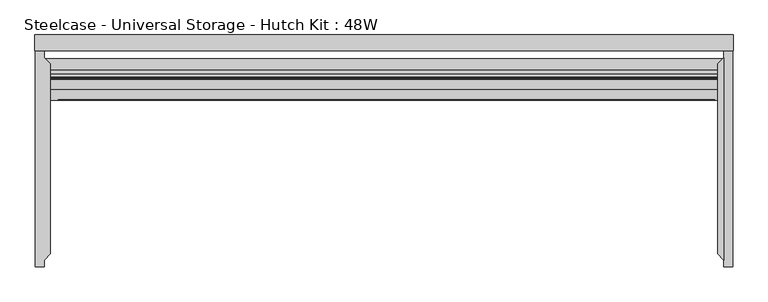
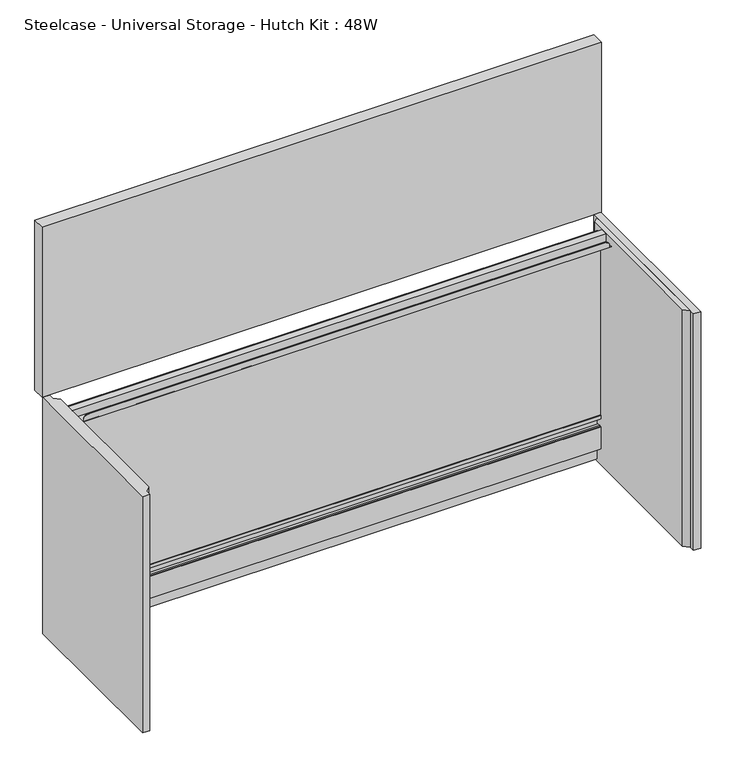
"""IFC4 building model written with IfcOpenShell, lengths in millimetres: furniture geometry, Steelcase - Universal Storage - Hutch Kit : 48W."""

import ifcopenshell
import ifcopenshell.guid

model = None  # the IFC model being written
_history = None  # IfcOwnerHistory: only IFC2X3 demands one
_inside = {}  # id of a spatial element -> (the spatial element, [elements in it])
_under = {}  # id of a project, library or spatial element -> (it, [spatial elements below it])
_declared = {}  # id of a project -> (the project, [libraries it declares])
_typed = {}  # id of a type object -> (the type object, [elements of that type])
_made_of = {}  # id of a material, layer set ... -> (it, [elements and type objects made of it])


def new_model(schema):
    """Start an empty IFC model of exactly this schema.

    Asked for "IFC4X3", IfcOpenShell would pick the latest addendum, in which some entities
    have other attributes; the version numbers below select the first issue.
    IFC2X3 requires an IfcOwnerHistory on every rooted entity: one is made here for all.
    """
    global model, _history
    if schema == "IFC4X3":
        model = ifcopenshell.file(schema_version=(4, 3, 0, 0))
    else:
        model = ifcopenshell.file(schema=schema)
    _inside.clear()
    _under.clear()
    _declared.clear()
    _typed.clear()
    _made_of.clear()
    _history = None
    if model.schema == "IFC2X3":
        org = make("IfcOrganization", Name="unknown")
        user = make(
            "IfcPersonAndOrganization",
            ThePerson=make("IfcPerson", FamilyName="unknown"),
            TheOrganization=org,
        )
        app = make(
            "IfcApplication",
            ApplicationDeveloper=org,
            Version="unknown",
            ApplicationFullName="unknown",
            ApplicationIdentifier="unknown",
        )
        _history = make(
            "IfcOwnerHistory",
            OwningUser=user,
            OwningApplication=app,
            ChangeAction="ADDED",
            CreationDate=0,
        )
    return model


def make(cls, **values):
    """One entity of the class cls with the attributes given. An attribute that is None is left unset."""
    return model.create_entity(
        cls, **{name: value for name, value in values.items() if value is not None}
    )


def rooted(cls, **values):
    """An entity with a GlobalId (a new one), such as an element, a storey or a relation."""
    return make(cls, GlobalId=ifcopenshell.guid.new(), OwnerHistory=_history, **values)


def si_unit(unit_type, name, prefix=None):
    """IfcSIUnit, for example si_unit("LENGTHUNIT", "METRE", prefix="MILLI")."""
    return make("IfcSIUnit", UnitType=unit_type, Prefix=prefix, Name=name)


def assignment(units):
    """IfcUnitAssignment: the units of a project."""
    return None if units is None else make("IfcUnitAssignment", Units=units)


def point(xyz):
    """IfcCartesianPoint."""
    return None if xyz is None else make("IfcCartesianPoint", Coordinates=xyz)


def direction(xyz):
    """IfcDirection."""
    return None if xyz is None else make("IfcDirection", DirectionRatios=xyz)


def frame(location, z_axis=None, x_axis=None):
    """IfcAxis2Placement3D, a coordinate frame: its origin and axes. An axis left out is left unset."""
    return make(
        "IfcAxis2Placement3D",
        Location=point(location),
        Axis=direction(z_axis),
        RefDirection=direction(x_axis),
    )


def origin():
    """The frame at (0, 0, 0) with its axes left unset."""
    return frame((0.0, 0.0, 0.0))


def place(relative_to, where):
    """IfcLocalPlacement: puts the frame where relative to a parent placement (None: the world)."""
    return make(
        "IfcLocalPlacement", PlacementRelTo=relative_to, RelativePlacement=where
    )


def context(
    kind, dimensions, precision=None, world=None, true_north=None, identifier=None
):
    """IfcGeometricRepresentationContext, for example the 3D "Model" context."""
    return make(
        "IfcGeometricRepresentationContext",
        ContextIdentifier=identifier,
        ContextType=kind,
        CoordinateSpaceDimension=dimensions,
        Precision=precision,
        WorldCoordinateSystem=world,
        TrueNorth=true_north,
    )


def project(units=None, contexts=None):
    """IfcProject with its units and contexts."""
    return rooted(
        "IfcProject",
        Name="project",
        RepresentationContexts=contexts,
        UnitsInContext=assignment(units),
    )


def spatial(cls, under=None, at=None, **own):
    """A site, building, storey or space (cls), placed at a placement, below another one or the project."""
    s = rooted(cls, ObjectPlacement=at, **own)
    if under is not None:
        _under.setdefault(under.id(), (under, []))[1].append(s)
    return s


def polyline(points):
    """IfcPolyline through the points."""
    return make("IfcPolyline", Points=[point(p) for p in points])


def circle_curve(where, radius):
    """IfcCircle in the frame where."""
    return make("IfcCircle", Position=where, Radius=radius)


def outline(outer, holes=None, kind="AREA"):
    """IfcArbitraryClosedProfileDef: a profile drawn as a closed curve; with holes, ...WithVoids."""
    if holes is None:
        return make("IfcArbitraryClosedProfileDef", ProfileType=kind, OuterCurve=outer)
    return make(
        "IfcArbitraryProfileDefWithVoids",
        ProfileType=kind,
        OuterCurve=outer,
        InnerCurves=holes,
    )


def extrude(swept, where, along, depth):
    """IfcExtrudedAreaSolid: the profile swept, set in the frame where, extruded along a direction by depth."""
    return make(
        "IfcExtrudedAreaSolid",
        SweptArea=swept,
        Position=where,
        ExtrudedDirection=direction(along),
        Depth=depth,
    )


def faces_of(points, faces, orient=None, outer=None):
    """IfcFace entities. A face is a list of loops; a loop is a list of indices into points, from 0.

    orient and outer hold one flag for each loop. By default every Orientation is true, the
    first loop of a face is its IfcFaceOuterBound and the others are IfcFaceBound.
    """
    made = []
    for i, loops in enumerate(faces):
        bounds = []
        for j, loop in enumerate(loops):
            is_outer = j == 0 if outer is None else outer[i][j]
            bounds.append(
                make(
                    "IfcFaceOuterBound" if is_outer else "IfcFaceBound",
                    Bound=make("IfcPolyLoop", Polygon=[points[k] for k in loop]),
                    Orientation=True if orient is None else orient[i][j],
                )
            )
        made.append(make("IfcFace", Bounds=bounds))
    return made


def faceted_brep(points, faces, orient=None, outer=None, voids=None):
    """IfcFacetedBrep: a solid bounded by flat faces; with voids (closed shells), ...WithVoids."""
    shared = [point(p) for p in points]
    hull = make("IfcClosedShell", CfsFaces=faces_of(shared, faces, orient, outer))
    if voids is None:
        return make("IfcFacetedBrep", Outer=hull)
    return make(
        "IfcFacetedBrepWithVoids",
        Outer=hull,
        Voids=[
            make(cls, CfsFaces=faces_of(shared, fs, o, b)) for cls, fs, o, b in voids
        ],
    )


def shape(context_of_items, identifier, shape_type, items):
    """IfcShapeRepresentation: the items that make up one representation, for example the "Body"."""
    return make(
        "IfcShapeRepresentation",
        ContextOfItems=context_of_items,
        RepresentationIdentifier=identifier,
        RepresentationType=shape_type,
        Items=items,
    )


def source(mapping_origin, context_of_items, identifier, shape_type, items):
    """IfcRepresentationMap: a shape defined once, which mapped items show again and again."""
    return make(
        "IfcRepresentationMap",
        MappingOrigin=mapping_origin,
        MappedRepresentation=shape(context_of_items, identifier, shape_type, items),
    )


def transform(
    local_origin,
    x_axis=None,
    y_axis=None,
    z_axis=None,
    scale=None,
    scale2=None,
    scale3=None,
    uniform=True,
):
    """IfcCartesianTransformationOperator3D, or its non-uniform kind. x_axis, y_axis, z_axis: its Axis1, 2, 3."""
    if uniform:
        return make(
            "IfcCartesianTransformationOperator3D",
            Axis1=direction(x_axis),
            Axis2=direction(y_axis),
            LocalOrigin=point(local_origin),
            Scale=scale,
            Axis3=direction(z_axis),
        )
    return make(
        "IfcCartesianTransformationOperator3DnonUniform",
        Axis1=direction(x_axis),
        Axis2=direction(y_axis),
        LocalOrigin=point(local_origin),
        Scale=scale,
        Axis3=direction(z_axis),
        Scale2=scale2,
        Scale3=scale3,
    )


def mapped(mapping_source, mapping_target):
    """IfcMappedItem: shows the shape of a source again, moved by a transform."""
    return make(
        "IfcMappedItem", MappingSource=mapping_source, MappingTarget=mapping_target
    )


def made_of(thing, what):
    """Note that an element or type object is made of a material, layer set ...; save() writes the relation."""
    if what is not None:
        _made_of.setdefault(what.id(), (what, []))[1].append(thing)
    return thing


def element(
    cls,
    number,
    at=None,
    inside=None,
    cuts=None,
    type_object=None,
    material=None,
    context=None,
    identifier="Body",
    shape_type=None,
    held_by="IfcProductDefinitionShape",
    body=None,
    shapes=None,
    **own,
):
    """One element of the class cls, such as IfcWall. Its Tag is "e" and its number.

    at: its placement. inside: the storey or other place that contains it. cuts: it is an
    opening in that element (IfcRelVoidsElement). A single representation is given by context,
    identifier, shape_type and body (its items); several are given by shapes. held_by: the class
    of the entity that holds the representations. save() writes the other relations.
    """
    e = rooted(cls, Tag="e%d" % number, ObjectPlacement=at, **own)
    if body is not None:
        shapes = [shape(context, identifier, shape_type, body)]
    if shapes is not None:
        e.Representation = make(held_by, Representations=shapes)
    if inside is not None:
        _inside.setdefault(inside.id(), (inside, []))[1].append(e)
    if cuts is not None:
        rooted(
            "IfcRelVoidsElement", RelatingBuildingElement=cuts, RelatedOpeningElement=e
        )
    if type_object is not None:
        _typed.setdefault(type_object.id(), (type_object, []))[1].append(e)
    return made_of(e, material)


def aggregate(whole, parts):
    """IfcRelAggregates: a whole, such as a stair, and the parts it consists of."""
    return rooted("IfcRelAggregates", RelatingObject=whole, RelatedObjects=parts)


def save(model, path):
    """Write the relations noted so far, then the file.

    IfcRelAggregates (storeys below a building ...), IfcRelContainedInSpatialStructure (elements
    in a storey), IfcRelDefinesByType, IfcRelAssociatesMaterial and IfcRelDeclares: one each for
    every whole, place, type object, material and project.
    """
    for whole, parts in _under.values():
        aggregate(whole, parts)
    for where, things in _inside.values():
        rooted(
            "IfcRelContainedInSpatialStructure",
            RelatedElements=things,
            RelatingStructure=where,
        )
    for kind, things in _typed.values():
        rooted("IfcRelDefinesByType", RelatedObjects=things, RelatingType=kind)
    for what, things in _made_of.values():
        rooted("IfcRelAssociatesMaterial", RelatedObjects=things, RelatingMaterial=what)
    for by, libraries in _declared.values():
        rooted("IfcRelDeclares", RelatingContext=by, RelatedDefinitions=libraries)
    model.write(path)


def plane_surface(at):
    """IfcPlane: the flat surface through the origin of the frame at, square to its z axis."""
    return make("IfcPlane", Position=at)


def cylinder_surface(at, radius):
    """IfcCylindricalSurface: all points at the distance radius from the z axis of the frame at."""
    return make("IfcCylindricalSurface", Position=at, Radius=radius)


def advanced_brep(points, edges, surfaces, faces):
    """IfcAdvancedBrep: a solid bounded by faces that lie on surfaces and meet in shared edges.

    An edge is (start, end): straight between two places in points (the first is 0);
    or (start, end, curve); or (start, end, curve, False) where it runs against its curve.
    A face is (place in surfaces, loops), or (place, loops, False) where it looks against
    its surface's normal. A loop lists edges by number (the first is 1), with a minus sign
    where the edge is run from its end to its start. The first loop is the outer one.
    """
    corners = [point(p) for p in points]
    vertices = [make("IfcVertexPoint", VertexGeometry=c) for c in corners]
    made = []
    for start, end, *more in edges:
        made.append(
            make(
                "IfcEdgeCurve",
                EdgeStart=vertices[start],
                EdgeEnd=vertices[end],
                EdgeGeometry=more[0] if more else make("IfcPolyline", Points=[corners[start], corners[end]]),
                SameSense=more[1] if len(more) > 1 else True,
            )
        )
    hull = []
    for where, loops, *sense in faces:
        bounds = []
        for j, loop in enumerate(loops):
            ring = [make("IfcOrientedEdge", EdgeElement=made[abs(k) - 1], Orientation=k > 0) for k in loop]
            bounds.append(
                make(
                    "IfcFaceOuterBound" if j == 0 else "IfcFaceBound",
                    Bound=make("IfcEdgeLoop", EdgeList=ring),
                    Orientation=True,
                )
            )
        hull.append(make("IfcAdvancedFace", Bounds=bounds, FaceSurface=surfaces[where], SameSense=sense[0] if sense else True))
    return make("IfcAdvancedBrep", Outer=make("IfcClosedShell", CfsFaces=hull))


def steelcase_universal_storage_hutch_kit_48w_f621c2a9(model_context):
    return source(origin(), model_context, "Body", "SolidModel", [
        extrude(outline(polyline([(1203.0202, -39.6494001), (1203.0202, -393.4459972), (1192.022, -382.447795), (1192.022, -50.6476006), (1203.0202, -39.6494001)])), frame((0.0, 0.0, 723.9), z_axis=(0.0, 0.0, 1.0), x_axis=(1.0, 0.0, 0.0)), (0.0, 0.0, 1.0), 544.8554),
        extrude(outline(polyline([(1203.0202, -27.9400006), (1218.3872, -27.9400006), (1218.3872, -405.1553842), (1203.0202, -405.1553842), (1203.0202, -27.9400006)])), frame((0.0, 0.0, 723.9), z_axis=(0.0, 0.0, 1.0), x_axis=(1.0, 0.0, 0.0)), (0.0, 0.0, 1.0), 544.8554),
        extrude(outline(polyline([(16.1798, -405.1553842), (0.8128, -405.1553842), (0.8128, -27.9400006), (16.1798, -27.9400006), (16.1798, -39.6494001), (27.178, -50.6476006), (27.178, -382.447795), (16.1798, -393.4459972), (16.1798, -405.1553842)])), frame((0.0, 0.0, 723.9), z_axis=(0.0, 0.0, 1.0), x_axis=(1.0, 0.0, 0.0)), (0.0, 0.0, 1.0), 544.8554),
        advanced_brep(
        [(1192.022, -78.4097988, 1250.975386), (1192.022, -78.4097988, 1268.7554), (1192.022, -94.7420005, 1268.7554), (1192.022, -94.7420005, 1251.8898651), (1192.022, -114.2492006, 1251.8898651), (1192.022, -114.2492006, 1250.975386), (1192.022, -93.8275986, 1250.975386), (1192.022, -93.8275986, 1267.8410717), (1192.022, -79.3242007, 1267.8410717), (1192.022, -79.3242007, 1250.975386), (27.178, -78.4097988, 1250.975386), (27.178, -79.3242007, 1250.975386), (27.178, -79.3242007, 1267.8410717), (27.178, -93.8275986, 1267.8410717), (27.178, -93.8275986, 1250.975386), (27.178, -114.2492006, 1250.975386), (27.178, -114.2492006, 1251.8898651), (27.178, -94.7420005, 1251.8898651), (27.178, -94.7420005, 1268.7554), (27.178, -78.4097988, 1268.7554), (40.5892014, -114.2492006, 1251.8898651), (40.5892014, -113.3348006, 1251.8898651), (1187.4809148, -113.3348006, 1251.8898651), (1187.4809148, -114.2492006, 1251.8898651), (1187.4809148, -114.2492006, 1256.0554636), (1178.5909148, -114.2492006, 1264.9454636), (49.4792014, -114.2492006, 1264.9454636), (40.5892014, -114.2492006, 1256.0554636), (40.5892014, -113.3348006, 1256.0554636), (49.4792014, -113.3348006, 1264.9454636), (1178.5909148, -113.3348006, 1264.9454636), (1187.4809148, -113.3348006, 1256.0554636)],
        [
            (0, 1),
            (1, 2),
            (2, 3),
            (3, 4),
            (4, 5),
            (5, 6),
            (6, 7),
            (7, 8),
            (8, 9),
            (9, 0),
            (10, 11),
            (11, 12),
            (12, 13),
            (13, 14),
            (14, 15),
            (15, 16),
            (16, 17),
            (17, 18),
            (18, 19),
            (19, 10),
            (0, 10),
            (19, 1),
            (18, 2),
            (17, 3),
            (16, 20),
            (20, 21),
            (21, 22),
            (22, 23),
            (23, 4),
            (23, 24),
            (24, 25, circle_curve(frame((1178.5909148, -114.2492006, 1256.0554636), z_axis=(0.0, -1.0, 0.0), x_axis=(1.0, 0.0, 0.0)), 8.89)),
            (25, 26),
            (26, 27, circle_curve(frame((49.4792014, -114.2492006, 1256.0554636), z_axis=(0.0, -1.0, 0.0), x_axis=(1.0, 0.0, 0.0)), 8.89)),
            (27, 20),
            (15, 5),
            (14, 6),
            (13, 7),
            (12, 8),
            (11, 9),
            (28, 29, circle_curve(frame((49.4792014, -113.3348006, 1256.0554636), z_axis=(0.0, 1.0, 0.0), x_axis=(1.0, 0.0, 0.0)), 8.89)),
            (29, 30),
            (30, 31, circle_curve(frame((1178.5909148, -113.3348006, 1256.0554636), z_axis=(0.0, 1.0, 0.0), x_axis=(1.0, 0.0, 0.0)), 8.89)),
            (31, 22),
            (21, 28),
            (27, 28),
            (31, 24),
            (30, 25),
            (29, 26),
        ],
        [
            plane_surface(frame((1192.022, -78.4097988, 1268.7554), z_axis=(1.0, 0.0, 0.0), x_axis=(0.0, 0.0, 1.0))),
            plane_surface(frame((27.178, -78.4097988, 1268.7554), z_axis=(-1.0, 0.0, 0.0), x_axis=(0.0, 0.0, -1.0))),
            plane_surface(frame((1192.022, -78.4097988, 1250.975386), z_axis=(0.0, 1.0, 0.0), x_axis=(-1.0, 0.0, 0.0))),
            plane_surface(frame((1192.022, -78.4097988, 1268.7554), z_axis=(0.0, 0.0, 1.0), x_axis=(-1.0, 0.0, 0.0))),
            plane_surface(frame((1192.022, -94.7420005, 1268.7554), z_axis=(0.0, -1.0, 0.0), x_axis=(-1.0, 0.0, 0.0))),
            plane_surface(frame((1192.022, -94.7420005, 1251.8898651), z_axis=(0.0, 0.0, 1.0), x_axis=(-1.0, 0.0, 0.0))),
            plane_surface(frame((1192.022, -114.2492006, 1251.8898651), z_axis=(0.0, -1.0, 0.0), x_axis=(-1.0, 0.0, 0.0))),
            plane_surface(frame((1192.022, -114.2492006, 1250.975386), z_axis=(0.0, 0.0, -1.0), x_axis=(-1.0, 0.0, 0.0))),
            plane_surface(frame((1192.022, -93.8275986, 1250.975386), z_axis=(0.0, 1.0, 0.0), x_axis=(-1.0, 0.0, 0.0))),
            plane_surface(frame((1192.022, -93.8275986, 1267.8410717), z_axis=(0.0, 0.0, -1.0), x_axis=(-1.0, 0.0, 0.0))),
            plane_surface(frame((1192.022, -79.3242007, 1267.8410717), z_axis=(0.0, -1.0, 0.0), x_axis=(-1.0, 0.0, 0.0))),
            plane_surface(frame((1192.022, -79.3242007, 1250.975386), z_axis=(0.0, 0.0, -1.0), x_axis=(-1.0, 0.0, 0.0))),
            plane_surface(frame((40.5892014, -113.3348006, 1251.8898651), z_axis=(0.0, 1.0, 0.0), x_axis=(0.0, 0.0, 1.0))),
            plane_surface(frame((40.5892014, -114.2492006, 1256.0554636), z_axis=(-1.0, 0.0, 0.0), x_axis=(0.0, 1.0, 0.0))),
            plane_surface(frame((1187.4809148, -114.2492006, 1251.8898651), z_axis=(1.0, 0.0, 0.0), x_axis=(0.0, 1.0, 0.0))),
            cylinder_surface(frame((1178.5909148, -113.3348006, 1256.0554636), z_axis=(0.0, -1.0, 0.0), x_axis=(1.0, 0.0, 0.0)), 8.89),
            plane_surface(frame((1178.5909148, -114.2492006, 1264.9454636), z_axis=(0.0, 0.0, 1.0), x_axis=(0.0, 1.0, 0.0))),
            cylinder_surface(frame((49.4792014, -113.3348006, 1256.0554636), z_axis=(0.0, -1.0, 0.0), x_axis=(1.0, 0.0, 0.0)), 8.89),
        ],
        [
            (0, [[1, 2, 3, 4, 5, 6, 7, 8, 9, 10]]),
            (1, [[11, 12, 13, 14, 15, 16, 17, 18, 19, 20]]),
            (2, [[-1, 21, -20, 22]]),
            (3, [[-2, -22, -19, 23]]),
            (4, [[-3, -23, -18, 24]]),
            (5, [[-4, -24, -17, 25, 26, 27, 28, 29]]),
            (6, [[-5, -29, 30, 31, 32, 33, 34, -25, -16, 35]]),
            (7, [[-6, -35, -15, 36]]),
            (8, [[-7, -36, -14, 37]]),
            (9, [[-8, -37, -13, 38]]),
            (10, [[-9, -38, -12, 39]]),
            (11, [[-10, -39, -11, -21]]),
            (12, [[40, 41, 42, 43, -27, 44]]),
            (13, [[-34, 45, -44, -26]]),
            (14, [[-30, -28, -43, 46]]),
            (15, [[-31, -46, -42, 47]]),
            (16, [[-32, -47, -41, 48]]),
            (17, [[-33, -48, -40, -45]]),
        ],
    ),
        faceted_brep([(1192.022, -60.7822002, 848.0044), (1192.022, -60.7822002, 833.8820223), (1192.022, -74.2695991, 833.8820223), (1192.022, -74.2695991, 839.215999), (1192.022, -75.7936022, 839.215999), (1192.022, -75.7936022, 831.8500242), (1192.022, -60.7652681, 831.8500242), (1192.022, -60.7652681, 808.7613899), (1192.022, -64.6684001, 808.7613899), (1192.022, -64.6684001, 812.8000242), (1192.022, -70.7136025, 812.8000242), (1192.022, -70.7136025, 806.4499758), (1192.022, -74.2695991, 806.4499758), (1192.022, -74.2695991, 812.8000242), (1192.022, -75.7936022, 812.8000242), (1192.022, -75.7936022, 762.0), (1192.022, -60.7652681, 762.0), (1192.022, -60.7652681, 730.377), (1192.022, -50.6476006, 730.377), (1192.022, -50.6476006, 848.0044), (27.178, -60.7822002, 848.0044), (27.178, -50.6476006, 848.0044), (27.178, -50.6476006, 730.377), (27.178, -60.7652681, 730.377), (27.178, -60.7652681, 762.0), (27.178, -75.7936022, 762.0), (27.178, -75.7936022, 812.8000242), (27.178, -74.2695991, 812.8000242), (27.178, -74.2695991, 806.4499758), (27.178, -70.7136025, 806.4499758), (27.178, -70.7136025, 812.8000242), (27.178, -64.6684001, 812.8000242), (27.178, -64.6684001, 808.7613899), (27.178, -60.7652681, 808.7613899), (27.178, -60.7652681, 831.8500242), (27.178, -75.7936022, 831.8500242), (27.178, -75.7936022, 839.215999), (27.178, -74.2695991, 839.215999), (27.178, -74.2695991, 833.8820223), (27.178, -60.7822002, 833.8820223), (16.1798, -50.6476006, 730.377), (16.1798, -41.1480006, 730.377), (1203.0202, -41.1480006, 730.377), (1203.0202, -50.6476006, 730.377), (1203.0202, -50.6476006, 848.0044), (1203.0202, -41.1480006, 848.0044), (16.1798, -41.1480006, 848.0044), (16.1798, -50.6476006, 848.0044)], [[[0, 1, 2, 3, 4, 5, 6, 7, 8, 9, 10, 11, 12, 13, 14, 15, 16, 17, 18, 19]], [[20, 21, 22, 23, 24, 25, 26, 27, 28, 29, 30, 31, 32, 33, 34, 35, 36, 37, 38, 39]], [[1, 0, 20, 39]], [[2, 1, 39, 38]], [[3, 2, 38, 37]], [[4, 3, 37, 36]], [[5, 4, 36, 35]], [[6, 5, 35, 34]], [[7, 6, 34, 33]], [[8, 7, 33, 32]], [[9, 8, 32, 31]], [[10, 9, 31, 30]], [[11, 10, 30, 29]], [[12, 11, 29, 28]], [[13, 12, 28, 27]], [[14, 13, 27, 26]], [[15, 14, 26, 25]], [[16, 15, 25, 24]], [[17, 16, 24, 23]], [[18, 17, 23, 22, 40, 41, 42, 43]], [[0, 19, 44, 45, 46, 47, 21, 20]], [[44, 43, 42, 45]], [[47, 46, 41, 40]], [[43, 44, 19, 18]], [[47, 40, 22, 21]], [[45, 42, 41, 46]]]),
        extrude(outline(polyline([(1192.022, -61.9759999), (1192.022, -67.5258996), (27.178, -67.5258996), (27.178, -61.9759999), (1192.022, -61.9759999)])), frame((0.0, 0.0, 833.8820223), z_axis=(0.0, 0.0, 1.0), x_axis=(1.0, 0.0, 0.0)), (0.0, 0.0, 1.0), 423.4941359),
        extrude(outline(polyline([(1192.022, -67.5258996), (1192.022, -73.0618558), (27.178, -73.0618558), (27.178, -67.5258996), (1192.022, -67.5258996)])), frame((0.0, 0.0, 833.8820223), z_axis=(0.0, 0.0, 1.0), x_axis=(1.0, 0.0, 0.0)), (0.0, 0.0, 1.0), 423.4941359),
        extrude(outline(polyline([(1219.2, 0.0), (1219.2, -27.9400006), (0.0, -27.9400006), (0.0, 0.0), (1219.2, 0.0)])), frame((0.0, 0.0, 1268.7554), z_axis=(0.0, 0.0, 1.0), x_axis=(1.0, 0.0, 0.0)), (0.0, 0.0, 1.0), 391.9220132),
    ])


if __name__ == "__main__":
    model = new_model("IFC4")
    model_context = context("Model", 3, world=origin())
    ifc_project = project(units=[si_unit("LENGTHUNIT", "METRE", prefix="MILLI")], contexts=[model_context])
    site = spatial("IfcSite", under=ifc_project)
    building = spatial("IfcBuilding", under=site)
    placement = place(None, origin())
    steelcase_universal_storage_hutch_kit_48w_shape = steelcase_universal_storage_hutch_kit_48w_f621c2a9(model_context)
    element("IfcFurniture", 1, ObjectType="Steelcase - Universal Storage - Hutch Kit : 48W", at=placement, inside=building, context=model_context, shape_type="MappedRepresentation", body=[
        mapped(steelcase_universal_storage_hutch_kit_48w_shape, transform((0.0, 0.0, 0.0), x_axis=(1.0, 0.0, 0.0), y_axis=(0.0, 1.0, 0.0), z_axis=(0.0, 0.0, 1.0))),
    ])
    save(model, "model.ifc")
